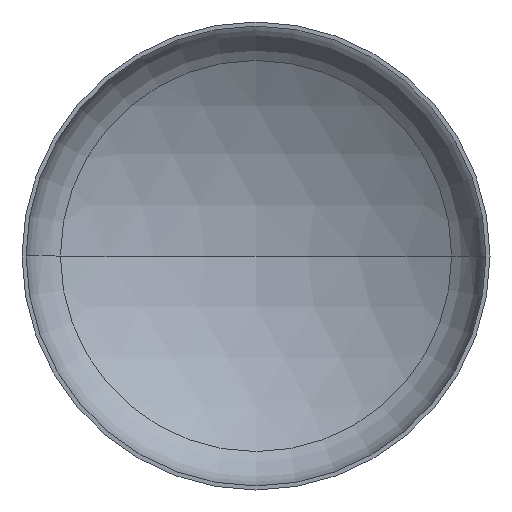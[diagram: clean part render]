
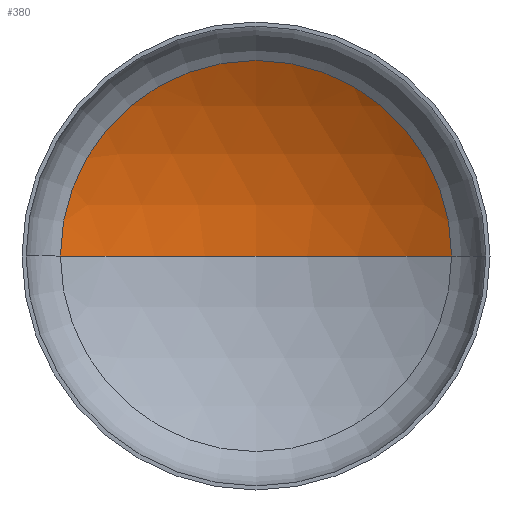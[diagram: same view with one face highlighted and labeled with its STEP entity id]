
A CAD part, front view. The second image highlights one B-rep face of the part: STEP entity #380.
In plain terms, the highlighted spherical face has radius 4400 mm.
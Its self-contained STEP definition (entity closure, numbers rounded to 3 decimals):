
#2 = ORIENTED_EDGE ( 'NONE', *, *, #79, .T. ) ;
#15 = FACE_OUTER_BOUND ( 'NONE', #94, .T. ) ;
#30 = DIRECTION ( 'NONE',  ( -1., 0., 0. ) ) ;
#33 = CARTESIAN_POINT ( 'NONE',  ( 0., -2881.431, 0. ) ) ;
#42 = ORIENTED_EDGE ( 'NONE', *, *, #150, .T. ) ;
#48 = VERTEX_POINT ( 'NONE', #213 ) ;
#79 = EDGE_CURVE ( 'NONE', #48, #91, #311, .T. ) ;
#91 = VERTEX_POINT ( 'NONE', #366 ) ;
#94 = EDGE_LOOP ( 'NONE', ( #110, #42, #2 ) ) ;
#109 = AXIS2_PLACEMENT_3D ( 'NONE', #290, #289, #164 ) ;
#110 = ORIENTED_EDGE ( 'NONE', *, *, #167, .F. ) ;
#143 = AXIS2_PLACEMENT_3D ( 'NONE', #297, #315, #313 ) ;
#150 = EDGE_CURVE ( 'NONE', #171, #48, #227, .T. ) ;
#155 = CIRCLE ( 'NONE', #109, 4400. ) ;
#164 = DIRECTION ( 'NONE',  ( 1., 0., 0. ) ) ;
#167 = EDGE_CURVE ( 'NONE', #171, #91, #155, .T. ) ;
#171 = VERTEX_POINT ( 'NONE', #291 ) ;
#213 = CARTESIAN_POINT ( 'NONE',  ( 2298.397, 870.551, 0. ) ) ;
#227 = CIRCLE ( 'NONE', #143, 4400. ) ;
#234 = SPHERICAL_SURFACE ( 'NONE', #258, 4400. ) ;
#258 = AXIS2_PLACEMENT_3D ( 'NONE', #33, #275, #30 ) ;
#275 = DIRECTION ( 'NONE',  ( 0., 0., -1. ) ) ;
#289 = DIRECTION ( 'NONE',  ( 0., 0., 1. ) ) ;
#290 = CARTESIAN_POINT ( 'NONE',  ( 0., -2881.431, 0. ) ) ;
#291 = CARTESIAN_POINT ( 'NONE',  ( 0., 1518.569, 0. ) ) ;
#297 = CARTESIAN_POINT ( 'NONE',  ( 0., -2881.431, 0. ) ) ;
#311 = CIRCLE ( 'NONE', #393, 2298.397 ) ;
#313 = DIRECTION ( 'NONE',  ( -1., 0., 0. ) ) ;
#315 = DIRECTION ( 'NONE',  ( 0., 0., -1. ) ) ;
#325 = DIRECTION ( 'NONE',  ( 1., 0., 0. ) ) ;
#327 = DIRECTION ( 'NONE',  ( 0., -1., 0. ) ) ;
#329 = CARTESIAN_POINT ( 'NONE',  ( 0., 870.551, 0. ) ) ;
#366 = CARTESIAN_POINT ( 'NONE',  ( -2298.397, 870.551, 0. ) ) ;
#380 = ADVANCED_FACE ( 'NONE', ( #15 ), #234, .F. ) ;
#393 = AXIS2_PLACEMENT_3D ( 'NONE', #329, #327, #325 ) ;
